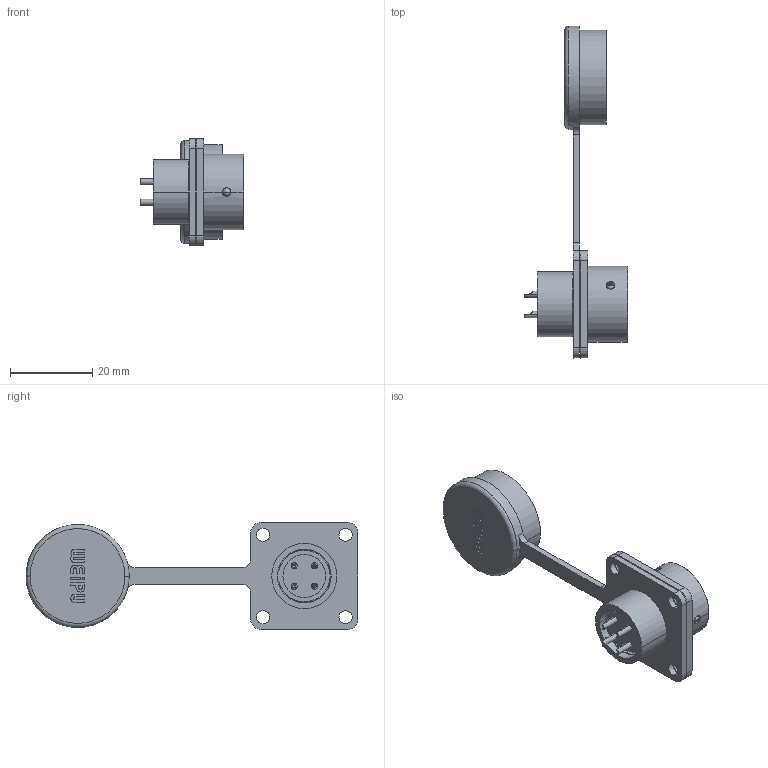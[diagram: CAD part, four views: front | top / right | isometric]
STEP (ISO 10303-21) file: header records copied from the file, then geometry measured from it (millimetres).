
FILE_DESCRIPTION((''),'2;1');
FILE_NAME('123','2020-07-22T',('Administrator'),(''),'CREO PARAMETRIC BY PTC INC, 2016130','CREO PARAMETRIC BY PTC INC, 2016130','');
FILE_SCHEMA(('CONFIG_CONTROL_DESIGN','GEOMETRIC_VALIDATION_PROPERTIES_MIM'));
Length unit declared in the file: inch
Products named in the file (1): 123
Bounding box: 25.2 x 80.5 x 26 mm (x, y, z)
Volume: 7835.5 mm3; surface area: 7164.7 mm2
Topology: 4 solids, 4 shells, 237 faces, 637 edges, 411 vertices
Faces by surface type: cylinder 99, plane 95, cone 30, sphere 9, torus 4
Entity records: 7771 total; most frequent: CARTESIAN_POINT 1605, DIRECTION 1323, ORIENTED_EDGE 1230, EDGE_CURVE 615, AXIS2_PLACEMENT_3D 498, VERTEX_POINT 411, VECTOR 327, LINE 327
